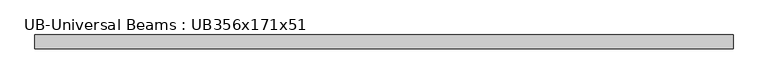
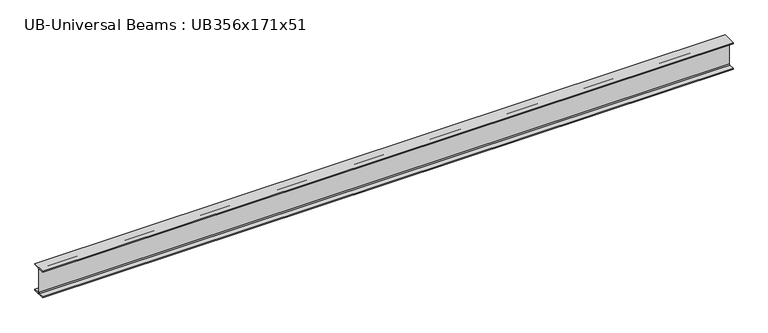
"""IFC4 building model written with IfcOpenShell, lengths in millimetres: beam geometry, UB-Universal Beams : UB356x171x51."""

from ifc_helpers import new_model, si_unit, point, frame, frame_2d, origin, place, context, project, spatial, polyline, circle_curve, trimmed, segment, composite_curve, outline, extrude, source, transform, mapped, element, save


def ub_universal_beams_ub356x171x51_c7dff8d2(model_context):
    return source(origin(), model_context, "Body", "SweptSolid", [
        extrude(outline(composite_curve([segment(polyline([(85.75, -166.0), (85.75, -177.5), (-85.75, -177.5), (-85.75, -166.0), (-13.9, -166.0)]), True, "CONTINUOUS"), segment(trimmed(circle_curve(frame_2d((-13.9, -155.8)), 10.2), [point((-13.9, -166.0))], [point((-3.7, -155.8))], True, "CARTESIAN"), True, "CONTINUOUS"), segment(polyline([(-3.7, -155.8), (-3.7, 155.8)]), True, "CONTINUOUS"), segment(trimmed(circle_curve(frame_2d((-13.9, 155.8)), 10.2), [point((-3.7, 155.8))], [point((-13.9, 166.0))], True, "CARTESIAN"), True, "CONTINUOUS"), segment(polyline([(-13.9, 166.0), (-85.75, 166.0), (-85.75, 177.5), (85.75, 177.5), (85.75, 166.0), (13.9, 166.0)]), True, "CONTINUOUS"), segment(trimmed(circle_curve(frame_2d((13.9, 155.8)), 10.2), [point((13.9, 166.0))], [point((3.7, 155.8))], True, "CARTESIAN"), True, "CONTINUOUS"), segment(polyline([(3.7, 155.8), (3.7, -155.8)]), True, "CONTINUOUS"), segment(trimmed(circle_curve(frame_2d((13.9, -155.8)), 10.2), [point((3.7, -155.8))], [point((13.9, -166.0))], True, "CARTESIAN"), True, "CONTINUOUS"), segment(polyline([(13.9, -166.0), (85.75, -166.0)]), True, "CONTINUOUS")], self_intersect=False)), frame((-4406.6, 0.0, 0.0), z_axis=(1.0, 0.0, 0.0), x_axis=(0.0, 1.0, 0.0)), (0.0, 0.0, 1.0), 8753.5),
    ])


if __name__ == "__main__":
    model = new_model("IFC4")
    model_context = context("Model", 3, world=origin())
    ifc_project = project(units=[si_unit("LENGTHUNIT", "METRE", prefix="MILLI")], contexts=[model_context])
    site = spatial("IfcSite", under=ifc_project)
    building = spatial("IfcBuilding", under=site)
    placement = place(None, origin())
    ub_universal_beams_ub356x171x51_shape = ub_universal_beams_ub356x171x51_c7dff8d2(model_context)
    element("IfcBeam", 1, ObjectType="UB-Universal Beams : UB356x171x51", at=placement, inside=building, context=model_context, shape_type="MappedRepresentation", body=[
        mapped(ub_universal_beams_ub356x171x51_shape, transform((0.0, 0.0, 0.0), x_axis=(1.0, 0.0, 0.0), y_axis=(0.0, 1.0, 0.0), z_axis=(0.0, 0.0, 1.0))),
    ])
    save(model, "model.ifc")
